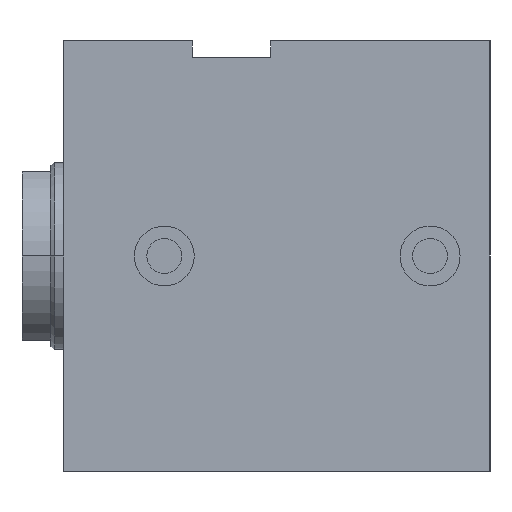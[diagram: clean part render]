
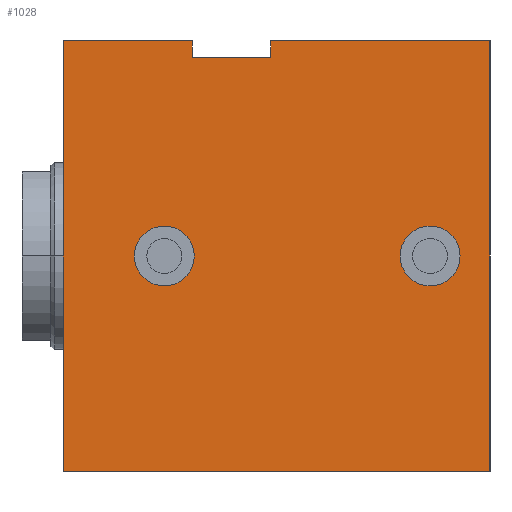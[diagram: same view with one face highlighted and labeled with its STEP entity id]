
A CAD part, left-side view. The second image highlights one B-rep face of the part: STEP entity #1028.
In plain terms, the highlighted planar face has unit normal (-1, 0, 0).
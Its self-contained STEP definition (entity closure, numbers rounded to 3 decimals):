
#16 = CARTESIAN_POINT ( 'NONE',  ( -150., 117., 106. ) ) ;
#42 = LINE ( 'NONE', #201, #2281 ) ;
#201 = CARTESIAN_POINT ( 'NONE',  ( -150., 128., 115. ) ) ;
#219 = ORIENTED_EDGE ( 'NONE', *, *, #2225, .T. ) ;
#233 = VECTOR ( 'NONE', #2293, 1000. ) ;
#253 = CARTESIAN_POINT ( 'NONE',  ( -150., 117., 106. ) ) ;
#270 = ORIENTED_EDGE ( 'NONE', *, *, #1527, .F. ) ;
#276 = ORIENTED_EDGE ( 'NONE', *, *, #524, .F. ) ;
#289 = DIRECTION ( 'NONE',  ( 0., -1., 0. ) ) ;
#293 = EDGE_CURVE ( 'NONE', #300, #1265, #1572, .T. ) ;
#300 = VERTEX_POINT ( 'NONE', #408 ) ;
#310 = DIRECTION ( 'NONE',  ( 0., 0., 1. ) ) ;
#323 = EDGE_CURVE ( 'NONE', #1647, #1573, #587, .T. ) ;
#406 = FACE_BOUND ( 'NONE', #1902, .T. ) ;
#408 = CARTESIAN_POINT ( 'NONE',  ( -150., 228., -115. ) ) ;
#423 = DIRECTION ( 'NONE',  ( 1., 0., 0. ) ) ;
#427 = CARTESIAN_POINT ( 'NONE',  ( -150., 228., 115. ) ) ;
#438 = PLANE ( 'NONE',  #2276 ) ;
#449 = ORIENTED_EDGE ( 'NONE', *, *, #995, .F. ) ;
#450 = VECTOR ( 'NONE', #310, 1000. ) ;
#461 = EDGE_CURVE ( 'NONE', #981, #1540, #1757, .T. ) ;
#481 = CARTESIAN_POINT ( 'NONE',  ( -150., 0., 115. ) ) ;
#489 = AXIS2_PLACEMENT_3D ( 'NONE', #1749, #1762, #1788 ) ;
#490 = CARTESIAN_POINT ( 'NONE',  ( -150., 128., -115. ) ) ;
#493 = CARTESIAN_POINT ( 'NONE',  ( -150., 0., -115. ) ) ;
#511 = CARTESIAN_POINT ( 'NONE',  ( -150., 228., -115. ) ) ;
#524 = EDGE_CURVE ( 'NONE', #1573, #1647, #1237, .T. ) ;
#532 = EDGE_CURVE ( 'NONE', #1265, #1748, #1170, .T. ) ;
#552 = DIRECTION ( 'NONE',  ( 0., 0., -1. ) ) ;
#564 = LINE ( 'NONE', #1543, #450 ) ;
#587 = CIRCLE ( 'NONE', #489, 16. ) ;
#588 = ORIENTED_EDGE ( 'NONE', *, *, #293, .F. ) ;
#591 = DIRECTION ( 'NONE',  ( 0., 0., 1. ) ) ;
#599 = CARTESIAN_POINT ( 'NONE',  ( -150., 32., 16. ) ) ;
#601 = ORIENTED_EDGE ( 'NONE', *, *, #1309, .T. ) ;
#606 = AXIS2_PLACEMENT_3D ( 'NONE', #1673, #1287, #681 ) ;
#631 = ORIENTED_EDGE ( 'NONE', *, *, #532, .F. ) ;
#634 = VECTOR ( 'NONE', #1395, 1000. ) ;
#653 = VECTOR ( 'NONE', #1014, 1000. ) ;
#670 = EDGE_LOOP ( 'NONE', ( #1782, #270 ) ) ;
#681 = DIRECTION ( 'NONE',  ( 0., 0., 1. ) ) ;
#779 = ORIENTED_EDGE ( 'NONE', *, *, #1890, .T. ) ;
#795 = ORIENTED_EDGE ( 'NONE', *, *, #461, .F. ) ;
#862 = VERTEX_POINT ( 'NONE', #1025 ) ;
#881 = LINE ( 'NONE', #493, #1316 ) ;
#903 = CARTESIAN_POINT ( 'NONE',  ( -150., 128., -115. ) ) ;
#913 = VECTOR ( 'NONE', #1696, 1000. ) ;
#981 = VERTEX_POINT ( 'NONE', #253 ) ;
#995 = EDGE_CURVE ( 'NONE', #1540, #1875, #42, .T. ) ;
#1014 = DIRECTION ( 'NONE',  ( 0., -1., 0. ) ) ;
#1025 = CARTESIAN_POINT ( 'NONE',  ( -150., 159., 106. ) ) ;
#1028 = ADVANCED_FACE ( 'NONE', ( #1820, #1304, #406 ), #438, .F. ) ;
#1045 = CARTESIAN_POINT ( 'NONE',  ( -150., 0., -115. ) ) ;
#1129 = LINE ( 'NONE', #903, #653 ) ;
#1156 = VERTEX_POINT ( 'NONE', #1045 ) ;
#1168 = VERTEX_POINT ( 'NONE', #1331 ) ;
#1170 = LINE ( 'NONE', #2026, #233 ) ;
#1201 = CARTESIAN_POINT ( 'NONE',  ( -150., 174., 16. ) ) ;
#1237 = CIRCLE ( 'NONE', #2267, 16. ) ;
#1265 = VERTEX_POINT ( 'NONE', #427 ) ;
#1287 = DIRECTION ( 'NONE',  ( -1., 0., 0. ) ) ;
#1304 = FACE_BOUND ( 'NONE', #670, .T. ) ;
#1306 = VECTOR ( 'NONE', #1562, 1000. ) ;
#1309 = EDGE_CURVE ( 'NONE', #1156, #1875, #881, .T. ) ;
#1316 = VECTOR ( 'NONE', #591, 1000. ) ;
#1331 = CARTESIAN_POINT ( 'NONE',  ( -150., 32., -16. ) ) ;
#1395 = DIRECTION ( 'NONE',  ( 0., 0., 1. ) ) ;
#1447 = LINE ( 'NONE', #1649, #913 ) ;
#1490 = AXIS2_PLACEMENT_3D ( 'NONE', #1876, #2006, #1984 ) ;
#1519 = ORIENTED_EDGE ( 'NONE', *, *, #323, .F. ) ;
#1520 = EDGE_CURVE ( 'NONE', #862, #981, #1447, .T. ) ;
#1527 = EDGE_CURVE ( 'NONE', #1168, #1637, #2258, .T. ) ;
#1540 = VERTEX_POINT ( 'NONE', #2025 ) ;
#1543 = CARTESIAN_POINT ( 'NONE',  ( -150., 159., 106. ) ) ;
#1562 = DIRECTION ( 'NONE',  ( 0., 0., 1. ) ) ;
#1572 = LINE ( 'NONE', #511, #634 ) ;
#1573 = VERTEX_POINT ( 'NONE', #2253 ) ;
#1637 = VERTEX_POINT ( 'NONE', #599 ) ;
#1647 = VERTEX_POINT ( 'NONE', #1201 ) ;
#1649 = CARTESIAN_POINT ( 'NONE',  ( -150., 159., 106. ) ) ;
#1673 = CARTESIAN_POINT ( 'NONE',  ( -150., 32., 0. ) ) ;
#1677 = EDGE_CURVE ( 'NONE', #1637, #1168, #2036, .T. ) ;
#1696 = DIRECTION ( 'NONE',  ( 0., -1., 0. ) ) ;
#1748 = VERTEX_POINT ( 'NONE', #1822 ) ;
#1749 = CARTESIAN_POINT ( 'NONE',  ( -150., 174., 0. ) ) ;
#1757 = LINE ( 'NONE', #16, #1306 ) ;
#1762 = DIRECTION ( 'NONE',  ( -1., 0., 0. ) ) ;
#1782 = ORIENTED_EDGE ( 'NONE', *, *, #1677, .F. ) ;
#1788 = DIRECTION ( 'NONE',  ( 0., 0., 1. ) ) ;
#1820 = FACE_OUTER_BOUND ( 'NONE', #2265, .T. ) ;
#1822 = CARTESIAN_POINT ( 'NONE',  ( -150., 159., 115. ) ) ;
#1875 = VERTEX_POINT ( 'NONE', #481 ) ;
#1876 = CARTESIAN_POINT ( 'NONE',  ( -150., 32., 0. ) ) ;
#1890 = EDGE_CURVE ( 'NONE', #300, #1156, #1129, .T. ) ;
#1902 = EDGE_LOOP ( 'NONE', ( #1519, #276 ) ) ;
#1984 = DIRECTION ( 'NONE',  ( 0., 0., 1. ) ) ;
#2006 = DIRECTION ( 'NONE',  ( -1., 0., 0. ) ) ;
#2025 = CARTESIAN_POINT ( 'NONE',  ( -150., 117., 115. ) ) ;
#2026 = CARTESIAN_POINT ( 'NONE',  ( -150., 128., 115. ) ) ;
#2036 = CIRCLE ( 'NONE', #606, 16. ) ;
#2040 = ORIENTED_EDGE ( 'NONE', *, *, #1520, .F. ) ;
#2137 = DIRECTION ( 'NONE',  ( -1., 0., 0. ) ) ;
#2170 = CARTESIAN_POINT ( 'NONE',  ( -150., 174., 0. ) ) ;
#2225 = EDGE_CURVE ( 'NONE', #862, #1748, #564, .T. ) ;
#2249 = DIRECTION ( 'NONE',  ( 0., 0., 1. ) ) ;
#2253 = CARTESIAN_POINT ( 'NONE',  ( -150., 174., -16. ) ) ;
#2258 = CIRCLE ( 'NONE', #1490, 16. ) ;
#2265 = EDGE_LOOP ( 'NONE', ( #449, #795, #2040, #219, #631, #588, #779, #601 ) ) ;
#2267 = AXIS2_PLACEMENT_3D ( 'NONE', #2170, #2137, #2249 ) ;
#2276 = AXIS2_PLACEMENT_3D ( 'NONE', #490, #423, #552 ) ;
#2281 = VECTOR ( 'NONE', #289, 1000. ) ;
#2293 = DIRECTION ( 'NONE',  ( 0., -1., 0. ) ) ;
